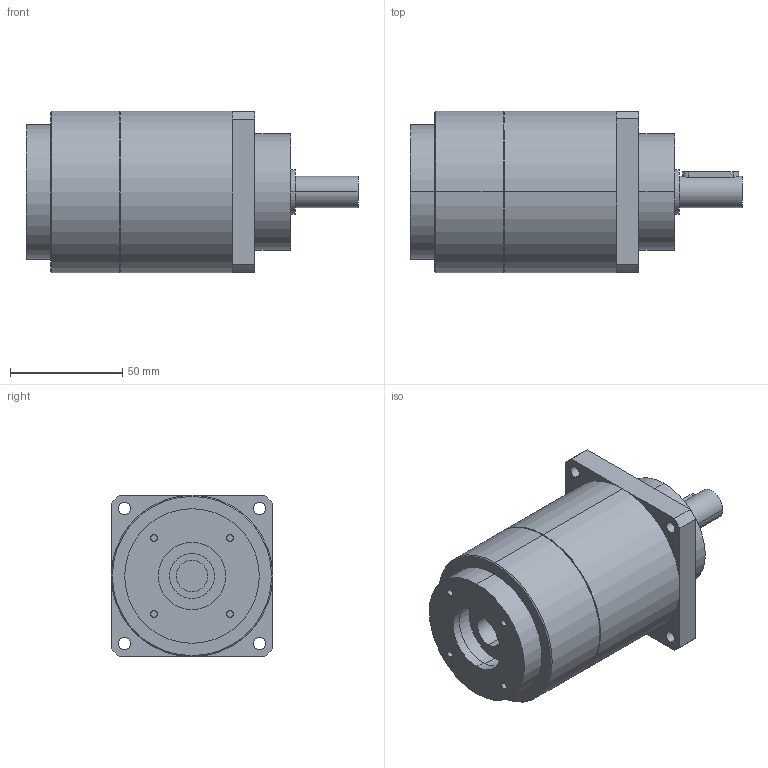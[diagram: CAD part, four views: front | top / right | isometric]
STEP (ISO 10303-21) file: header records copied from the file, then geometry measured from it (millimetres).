
FILE_DESCRIPTION(('CoCreate Modeling STEP Export'),'2;1');
FILE_NAME('GPT75_ig-9-12-16-20-25-28-35-40-50-70-100_14_B5T_14_P29.stp','2014-08-27T13:38:13',(''),(''),'CoCreate Modeling STEP processor for AP214 (Solid Model)','CoCreate Modeling 16.00C 25-Feb-2009 (C) Parametric Technology GmbH','');
FILE_SCHEMA(('AUTOMOTIVE_DESIGN { 1 0 10303 214 1 1 1 1 }'));
Length unit declared in the file: millimetre
Products named in the file (2): GPT75_ig-9-12-16-20-25-28-35-40-50-70-100_14_B5T_14_P29
Assembly tree (1 placements, depth 2):
  GPT75_ig-9-12-16-20-25-28-35-40-50-70-100_14_B5T_14_P29
    GPT75_ig-9-12-16-20-25-28-35-40-50-70-100_14_B5T_14_P29
Bounding box: 148 x 72 x 72 mm (x, y, z)
Volume: 437834.8 mm3; surface area: 41714.4 mm2
Topology: 1 solids, 1 shells, 75 faces, 177 edges, 118 vertices
Faces by surface type: cylinder 44, plane 27, cone 4
Entity records: 2271 total; most frequent: CARTESIAN_POINT 680, ORIENTED_EDGE 354, DIRECTION 278, EDGE_CURVE 177, VERTEX_POINT 118, AXIS2_PLACEMENT_3D 104, EDGE_LOOP 97, FACE_OUTER_BOUND 75
